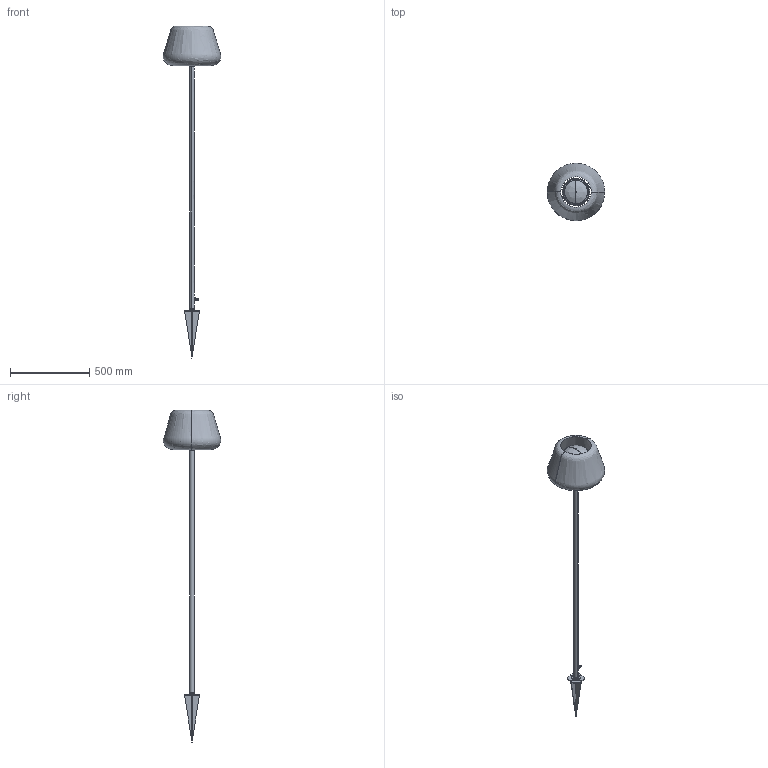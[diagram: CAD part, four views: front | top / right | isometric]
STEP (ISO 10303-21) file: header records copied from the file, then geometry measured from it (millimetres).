
FILE_DESCRIPTION(/* description */ (''),/* implementation_level */ '2;1');
FILE_NAME(/* name */ 'ET04744.035.0000',/* time_stamp */ '2024-10-22T10:32:03+02:00',/* author */ (''),/* organization */ (''),/* preprocessor_version */ 'ST-DEVELOPER v16.5',/* originating_system */ '',/* authorisation */ '');
FILE_SCHEMA (('AUTOMOTIVE_DESIGN'));
Length unit declared in the file: millimetre
Products named in the file (1): Document
Bounding box: 362.85 x 362.37 x 2091.98 mm (x, y, z)
Volume: 1061627.4 mm3; surface area: 1397883.1 mm2
Topology: 19 solids, 19 shells, 654 faces, 1435 edges, 841 vertices
Faces by surface type: bspline 489, plane 165
Entity records: 48193 total; most frequent: CARTESIAN_POINT 39761, ORIENTED_EDGE 2870, EDGE_CURVE 1435, VERTEX_POINT 841, EDGE_LOOP 720, ADVANCED_FACE 654, FACE_OUTER_BOUND 654, B_SPLINE_CURVE_WITH_KNOTS 614
